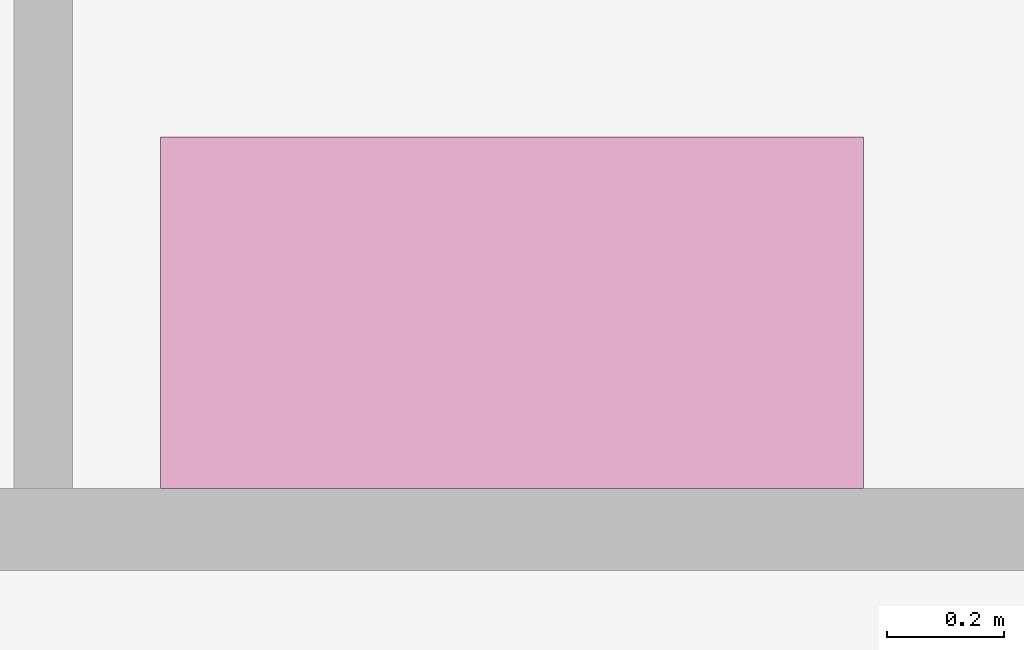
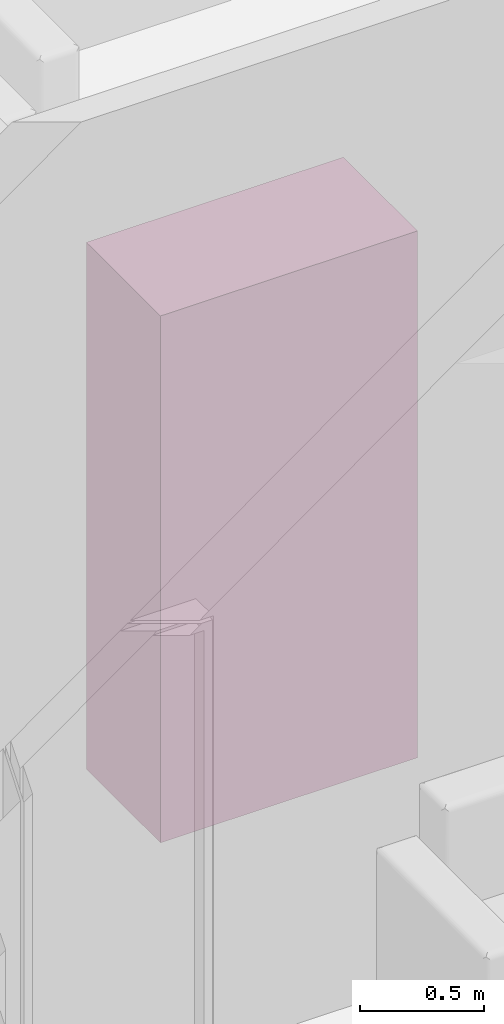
# One storey, part 63 of 69: 1 furniture element.
"""IFC4 building model written with IfcOpenShell, lengths in centimetres."""

from ifc_helpers import new_model, entity, si_unit, converted_unit, derived_unit, direction, frame, origin, place, context, subcontext, project, spatial, indexed_curve, outline, extrude, source, transform, mapped, material, type_object, type_shapes, element, save


model = new_model("IFC4")

# Units and contexts
model_context = context("Model", 3, precision=0.001, world=origin(), true_north=direction((6.123233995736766e-17, 1.0)))
body_context = subcontext(model_context, "Body", "Model", "MODEL_VIEW")
ifc_project = project(units=[si_unit("LENGTHUNIT", "METRE", prefix="CENTI"), si_unit("AREAUNIT", "SQUARE_METRE"), si_unit("VOLUMEUNIT", "CUBIC_METRE"), derived_unit("THERMALTRANSMITTANCEUNIT", [(si_unit("MASSUNIT", "GRAM", prefix="KILO"), 1), (si_unit("THERMODYNAMICTEMPERATUREUNIT", "KELVIN"), -1), (si_unit("TIMEUNIT", "SECOND"), -3)]), converted_unit("PLANEANGLEUNIT", "DEGREE", entity("IfcPlaneAngleMeasure", 0.017453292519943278), si_unit("PLANEANGLEUNIT", "RADIAN"), dimensions=[0, 0, 0, 0, 0, 0, 0]), derived_unit("MASSDENSITYUNIT", [(si_unit("MASSUNIT", "GRAM", prefix="KILO"), 1), (si_unit("LENGTHUNIT", "METRE"), -3)]), derived_unit("VAPORPERMEABILITYUNIT", [(si_unit("LENGTHUNIT", "METRE"), -1), (si_unit("TIMEUNIT", "SECOND"), 1)]), derived_unit("USERDEFINED", [(si_unit("MASSUNIT", "GRAM", prefix="KILO"), 1), (si_unit("TIMEUNIT", "SECOND"), -3), (si_unit("LENGTHUNIT", "METRE"), 3), (si_unit("ELECTRICCURRENTUNIT", "AMPERE"), -2)]), derived_unit("SPECIFICHEATCAPACITYUNIT", [(si_unit("THERMODYNAMICTEMPERATUREUNIT", "KELVIN"), -1), (si_unit("LENGTHUNIT", "METRE"), 2), (si_unit("TIMEUNIT", "SECOND"), -2)]), derived_unit("THERMALCONDUCTANCEUNIT", [(si_unit("MASSUNIT", "GRAM", prefix="KILO"), 1), (si_unit("THERMODYNAMICTEMPERATUREUNIT", "KELVIN"), -1), (si_unit("TIMEUNIT", "SECOND"), -3), (si_unit("LENGTHUNIT", "METRE"), 1)]), si_unit("PRESSUREUNIT", "PASCAL"), derived_unit("MODULUSOFELASTICITYUNIT", [(si_unit("MASSUNIT", "GRAM", prefix="KILO"), 1), (si_unit("LENGTHUNIT", "METRE"), -1), (si_unit("TIMEUNIT", "SECOND"), -2)]), derived_unit("THERMALEXPANSIONCOEFFICIENTUNIT", [(si_unit("THERMODYNAMICTEMPERATUREUNIT", "KELVIN"), -1)])], contexts=[model_context])

# Site, building, storey, space
site_placement = place(None, origin())
site = spatial("IfcSite", under=ifc_project, at=site_placement, Name="Default", CompositionType="ELEMENT")
building_placement = place(site_placement, origin())
building = spatial("IfcBuilding", under=site, at=building_placement, Name="IDS Escape Game Building", CompositionType="ELEMENT")
storey_placement = place(building_placement, origin())
storey = spatial("IfcBuildingStorey", under=building, at=storey_placement, Name="00_Ground Floor", CompositionType="ELEMENT", Elevation=0.0)
space_placement = place(storey_placement, origin())
space = spatial("IfcSpace", under=storey, at=space_placement, Name="12", CompositionType="ELEMENT", PredefinedType="NOTDEFINED")

# Furniture
ifc_material = material(Name="<Unnamed>")
furniture_type = type_object("IfcFurnitureType", Name="BPL_82.11_CA_UN_kast_gen_BERSnl:type 1", AssemblyPlace="NOTDEFINED", PredefinedType="NOTDEFINED", material=ifc_material)
shared_shape = source(origin(), body_context, "Body", "SweptSolid", [
    extrude(outline(indexed_curve([(-59.99999999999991, -29.999999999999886), (59.99999999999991, -29.999999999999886), (59.99999999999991, 29.999999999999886), (-59.99999999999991, 29.999999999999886), (-59.99999999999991, -29.999999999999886)], self_intersect=False)), frame((-60.0, -30.0, 0.0), z_axis=(0.0, 0.0, 1.0), x_axis=(-1.0, 0.0, 0.0)), (0.0, 0.0, 1.0), 260.0),
])
type_shapes(furniture_type, [shared_shape])
furniture_placement = place(space_placement, frame((3249.0, 711.0, 0.0)))
element("IfcFurniture", 1, at=furniture_placement, inside=space, type_object=furniture_type, material=ifc_material, Name="BPL_82.11_CA_UN_kast_gen_BERSnl:type 1", ObjectType="BPL_82.11_CA_UN_kast_gen_BERSnl:type 1", PredefinedType="NOTDEFINED", context=body_context, shape_type="MappedRepresentation", body=[
    mapped(shared_shape, transform((0.0, 0.0, 0.0), scale=1.0)),
])

save(model, "model.ifc")
